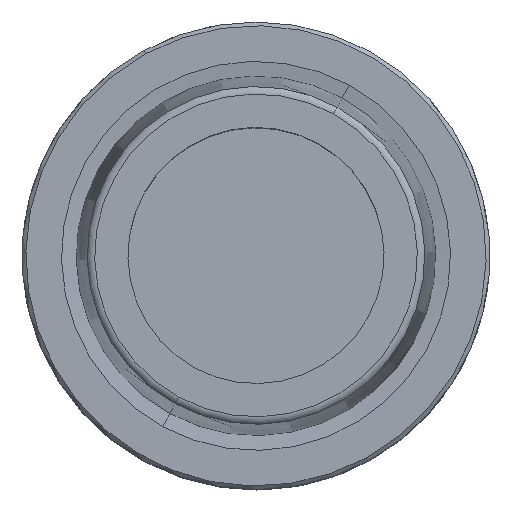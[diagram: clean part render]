
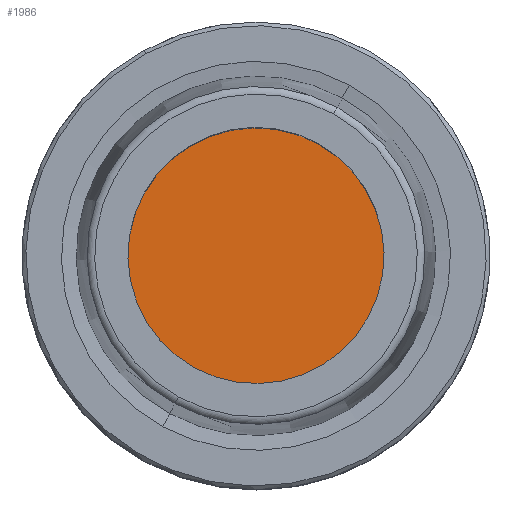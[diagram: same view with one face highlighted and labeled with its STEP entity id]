
A CAD part, top view. The second image highlights one B-rep face of the part: STEP entity #1986.
In plain terms, the highlighted planar face has unit normal (0, 0, 1).
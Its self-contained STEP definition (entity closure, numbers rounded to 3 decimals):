
#1912=AXIS2_PLACEMENT_3D('Circle Axis2P3D',#1910,#1911,$) ;
#1924=AXIS2_PLACEMENT_3D('Circle Axis2P3D',#1922,#1923,$) ;
#1980=AXIS2_PLACEMENT_3D('Plane Axis2P3D',#1977,#1978,#1979) ;
#1900=CARTESIAN_POINT('Vertex',(-8.27,-15.138,-10.)) ;
#1907=CARTESIAN_POINT('Vertex',(8.27,15.138,-10.)) ;
#1910=CARTESIAN_POINT('Axis2P3D Location',(0.,0.,-10.)) ;
#1922=CARTESIAN_POINT('Axis2P3D Location',(0.,0.,-10.)) ;
#1977=CARTESIAN_POINT('Axis2P3D Location',(0.,15.75,-10.)) ;
#1911=DIRECTION('Axis2P3D Direction',(0.,0.,-1.)) ;
#1923=DIRECTION('Axis2P3D Direction',(0.,0.,-1.)) ;
#1978=DIRECTION('Axis2P3D Direction',(0.,0.,-1.)) ;
#1979=DIRECTION('Axis2P3D XDirection',(1.,0.,0.)) ;
#1983=ORIENTED_EDGE('',*,*,#1926,.T.) ;
#1984=ORIENTED_EDGE('',*,*,#1914,.T.) ;
#1986=ADVANCED_FACE('NOCUT',(#1985),#1981,.F.) ;
#1913=CIRCLE('generated circle',#1912,17.25) ;
#1925=CIRCLE('generated circle',#1924,17.25) ;
#1914=EDGE_CURVE('',#1901,#1908,#1913,.F.) ;
#1926=EDGE_CURVE('',#1908,#1901,#1925,.F.) ;
#1982=EDGE_LOOP('',(#1983,#1984)) ;
#1985=FACE_OUTER_BOUND('',#1982,.T.) ;
#1981=PLANE('',#1980) ;
#1901=VERTEX_POINT('',#1900) ;
#1908=VERTEX_POINT('',#1907) ;
